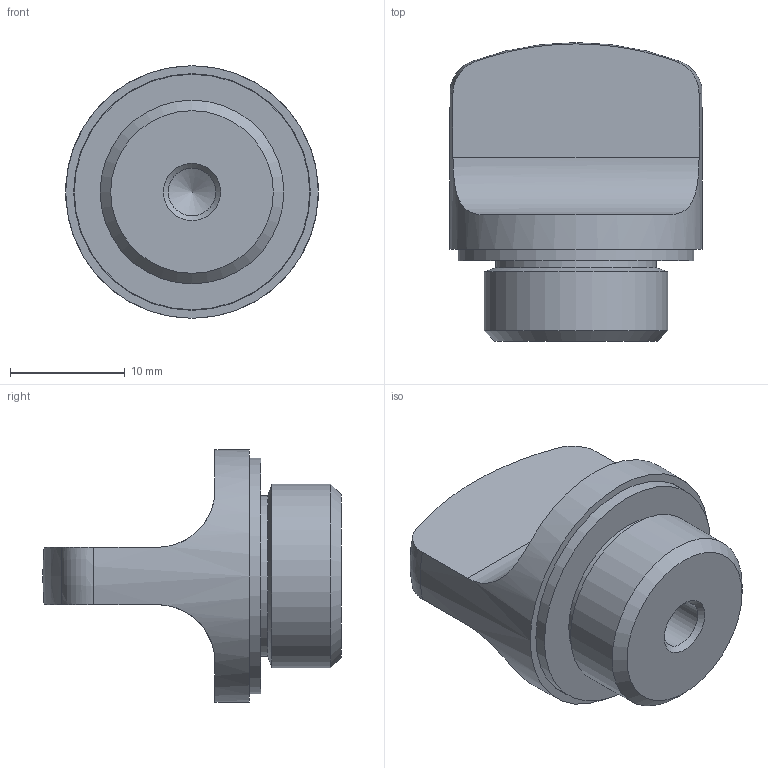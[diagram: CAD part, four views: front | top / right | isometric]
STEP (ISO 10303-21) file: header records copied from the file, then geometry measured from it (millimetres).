
FILE_DESCRIPTION( ( 'STEP AP203' ), '1' );
FILE_NAME( 'C:/Temp/Ganter_Step_05_03_2020/data/3_5/gn441/Threaded plug GN 441-22-M16x1,5-2-SW.stp', '2020-03-12T13:34:52', ( 'License CC BY-ND 4.0' ), ( 'CADENAS' ), ' ', 'PARTsolutions', ' ' );
FILE_SCHEMA( ( 'CONFIG_CONTROL_DESIGN' ) );
Length unit declared in the file: millimetre
Products named in the file (1): _Threaded plug GN 441-22-M16x1,5-2-SW
Bounding box: 22 x 26 x 22 mm (x, y, z)
Volume: 4336.5 mm3; surface area: 2684.3 mm2
Topology: 1 solids, 1 shells, 31 faces, 69 edges, 45 vertices
Faces by surface type: cylinder 12, plane 11, cone 5, torus 2, sphere 1
Full cylindrical faces by diameter (mm): 2 x1, 4.134 x1, 14 x1, 14.5 x1, 16 x1, 18.5 x1, 18.6 x1, 20.5 x1, 20.6 x1, 22 x1
Entity records: 950 total; most frequent: CARTESIAN_POINT 308, DIRECTION 128, ORIENTED_EDGE 92, AXIS2_PLACEMENT_3D 60, EDGE_LOOP 54, EDGE_CURVE 46, FACE_OUTER_BOUND 41, VERTEX_POINT 40
